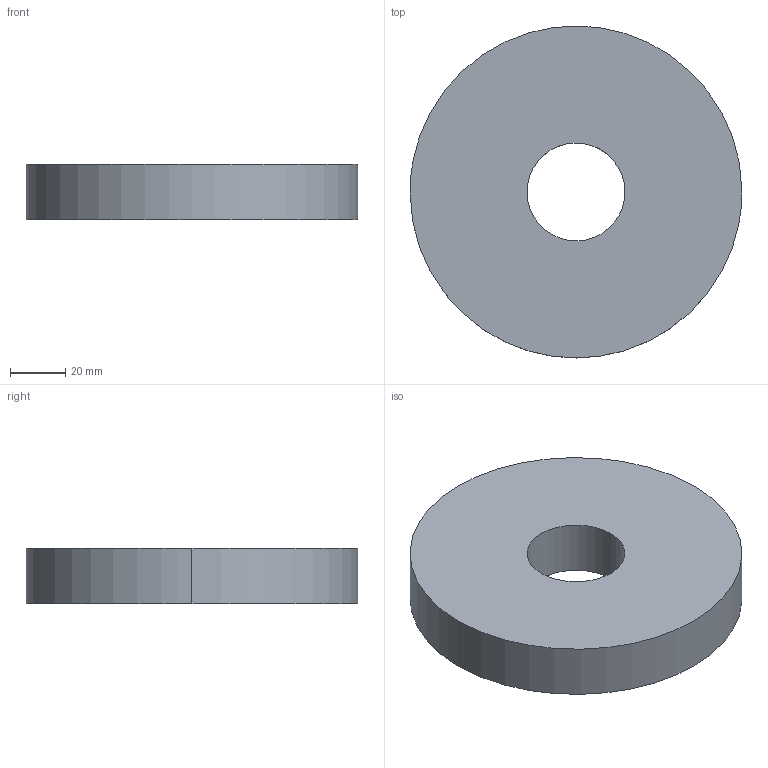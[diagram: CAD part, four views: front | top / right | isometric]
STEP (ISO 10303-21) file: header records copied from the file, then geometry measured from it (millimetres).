
FILE_DESCRIPTION(/* description */ (''),/* implementation_level */ '2;1');
FILE_NAME(/* name */ 'Material 1',/* time_stamp */ '2019-04-01T02:42:06-04:00',/* author */ (''),/* organization */ (''),/* preprocessor_version */ 'ST-DEVELOPER v15',/* originating_system */ '',/* authorisation */ '');
FILE_SCHEMA (('AUTOMOTIVE_DESIGN'));
Length unit declared in the file: millimetre
Products named in the file (1): Document
Bounding box: 120 x 120 x 20 mm (x, y, z)
Volume: 206968.2 mm3; surface area: 30422.7 mm2
Topology: 1 solids, 1 shells, 6 faces, 12 edges, 8 vertices
Faces by surface type: bspline 4, plane 2
Entity records: 326 total; most frequent: CARTESIAN_POINT 212, ORIENTED_EDGE 24, EDGE_CURVE 12, EDGE_LOOP 8, VERTEX_POINT 8, ADVANCED_FACE 6, FACE_OUTER_BOUND 6, B_SPLINE_CURVE_WITH_KNOTS 6
